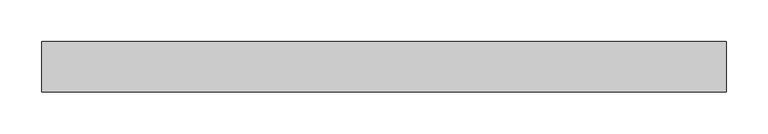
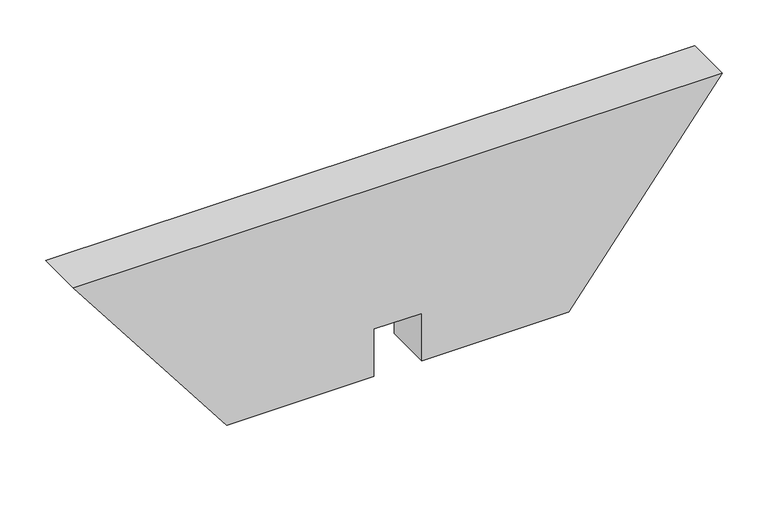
"""IFC4 building model written with IfcOpenShell, lengths in millimetres: proxy geometry, Modelos genéricos 28 : Modelos genéricos 3."""

from ifc_helpers import new_model, si_unit, frame, origin, place, context, project, spatial, polyline, outline, extrude, source, transform, mapped, element, save


def generic_models_e5331721(model_context):
    return source(origin(), model_context, "Body", "SweptSolid", [
        extrude(outline(polyline([(3347.4183406, 44761.5188113), (3347.4183406, 43945.3756822), (3096.9471217, 44138.4472467), (3096.9471217, 44323.4472467), (3160.0, 44323.4472467), (3160.0, 44383.4472467), (3096.9471217, 44383.4472467), (3096.9471217, 44568.4472467), (3347.4183406, 44761.5188113)])), frame((0.0, 6078.6238165, 0.0), z_axis=(0.0, 1.0, 0.0), x_axis=(0.0, 0.0, 1.0)), (0.0, 0.0, 1.0), 60.0),
    ])


if __name__ == "__main__":
    model = new_model("IFC4")
    model_context = context("Model", 3, world=origin())
    ifc_project = project(units=[si_unit("LENGTHUNIT", "METRE", prefix="MILLI")], contexts=[model_context])
    site = spatial("IfcSite", under=ifc_project)
    building = spatial("IfcBuilding", under=site)
    placement = place(None, origin())
    generic_models_shape = generic_models_e5331721(model_context)
    element("IfcBuildingElementProxy", 1, Name="Modelos genéricos 28 : Modelos genéricos 3", ObjectType="Modelos genéricos 28 : Modelos genéricos 3", at=placement, inside=building, context=model_context, shape_type="MappedRepresentation", body=[
        mapped(generic_models_shape, transform((0.0, 0.0, 0.0), x_axis=(1.0, 0.0, 0.0), y_axis=(0.0, 1.0, 0.0), z_axis=(0.0, 0.0, 1.0))),
    ])
    save(model, "model.ifc")
